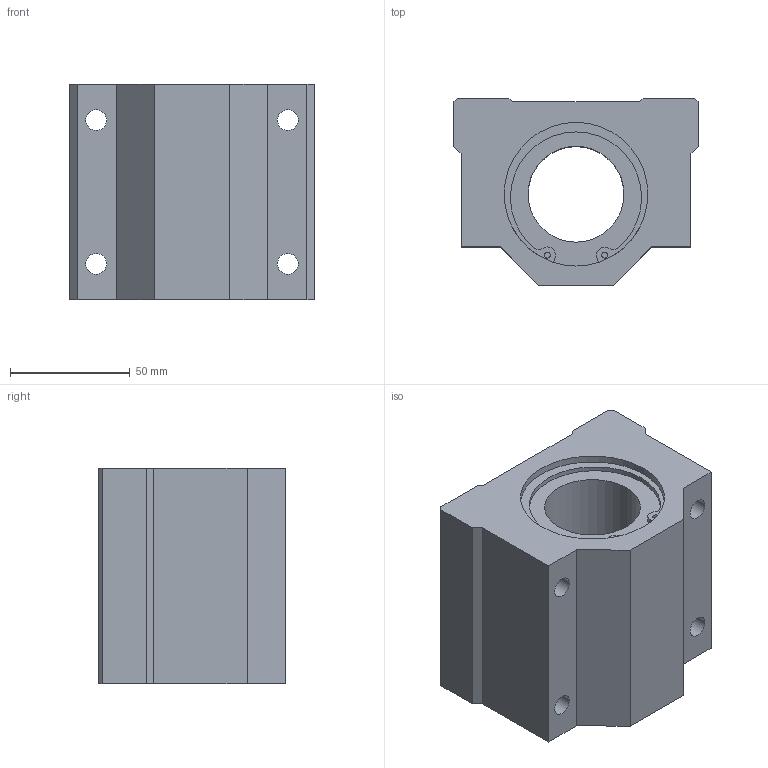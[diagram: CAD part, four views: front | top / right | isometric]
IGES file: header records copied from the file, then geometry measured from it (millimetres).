
Start section: 3D InterOp IGES (Version 21 0 1), Spatial Corp. Copyright (c) 1999-2007.
Global section: file name: LC-40VAUU.igs; native system: Spatial Corp.; preprocessor: 3D InterOp GENERIC/IGES 3.0; author: Noname; organization: Noname; date: 20220519.103442; units: millimetre
Bounding box: 102 x 78 x 90 mm (x, y, z)
Surface area: 59635.9 mm2 (no closed solid volume)
Topology: 0 solids, 0 shells, 82 faces, 428 edges, 428 vertices
Faces by surface type: revolution 50, extrusion 32
